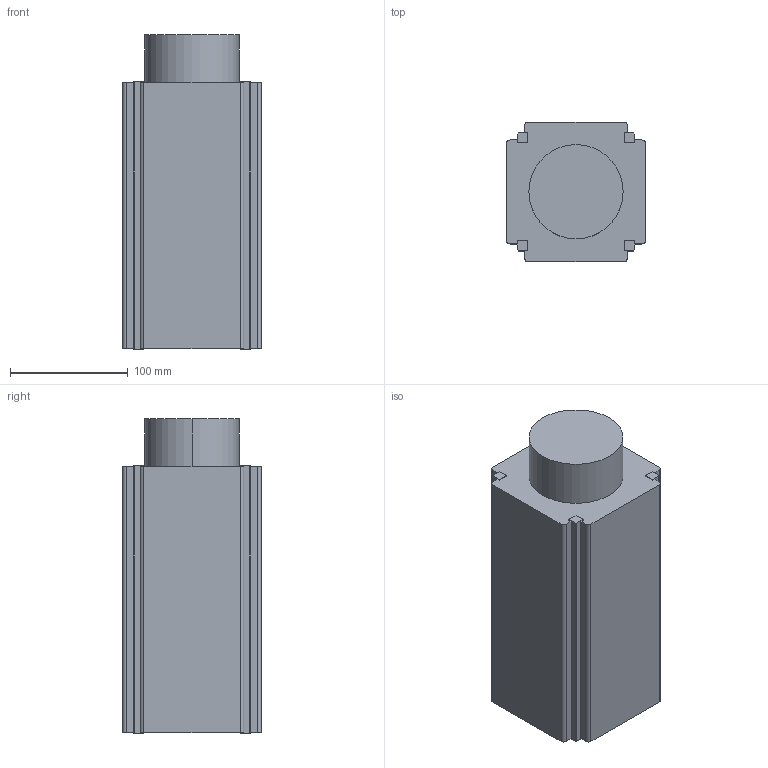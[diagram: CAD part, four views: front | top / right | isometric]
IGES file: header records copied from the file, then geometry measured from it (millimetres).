
Start section:  PTC IGES file: C:\Users\gleb\z) Windows folders\Desktop\1) ISIPOD Fligh t Model\4) CubeSat_Dims\140922_RevB_2U_CubeSat_ISIS_Advised_Max _Dimensi ons.igs
Global section: file name: C:\Users\gleb\z) Windows folders\Desktop\1) ISIPOD Flight Model\4) CubeSat_Dims\140922_RevB_2U_CubeSat_ISIS_Advised_Max _Dimensions.igs; native system: gleb by Parametric Technology Corporation; preprocessor: 2003250; author: Unknown; organization: PTC; date: 140923.105035; units: millimetre
Bounding box: 118 x 118 x 267 mm (x, y, z)
Volume: 3175886.2 mm3; surface area: 140428 mm2
Topology: 1 solids, 1 shells, 61 faces, 174 edges, 116 vertices
Faces by surface type: bspline 51, revolution 10
